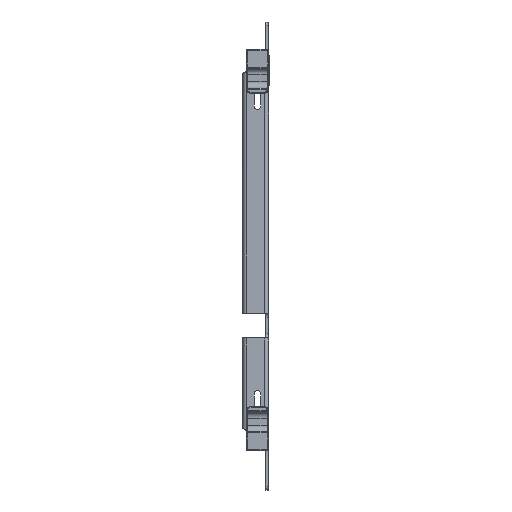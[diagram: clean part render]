
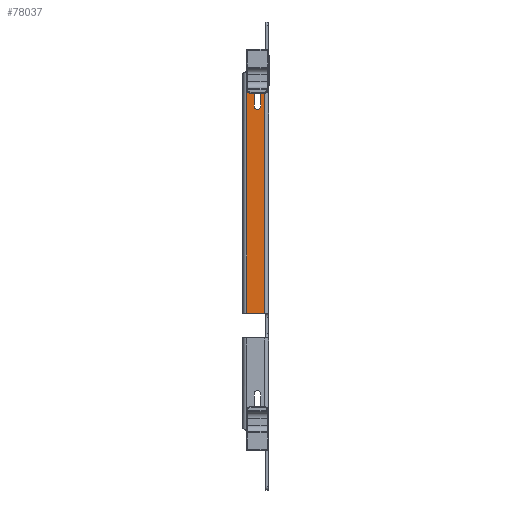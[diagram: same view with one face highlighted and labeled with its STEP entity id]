
A CAD part, left-side view. The second image highlights one B-rep face of the part: STEP entity #78037.
In plain terms, the highlighted planar face has unit normal (-1, 0, 0).
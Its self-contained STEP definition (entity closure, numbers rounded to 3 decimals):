
#810 = CARTESIAN_POINT ( 'NONE',  ( -214.538, -14.722, 309.982 ) ) ;
#2308 = CARTESIAN_POINT ( 'NONE',  ( -214.538, -14.722, 6.223 ) ) ;
#3298 = VERTEX_POINT ( 'NONE', #29318 ) ;
#5961 = VECTOR ( 'NONE', #44563, 1000. ) ;
#7656 = VECTOR ( 'NONE', #46273, 1000. ) ;
#9056 = LINE ( 'NONE', #36776, #32837 ) ;
#14528 = EDGE_CURVE ( 'NONE', #34380, #23876, #23223, .T. ) ;
#15493 = ORIENTED_EDGE ( 'NONE', *, *, #39922, .T. ) ;
#16101 = CARTESIAN_POINT ( 'NONE',  ( -214.538, -11.547, 309.982 ) ) ;
#16406 = LINE ( 'NONE', #77020, #48850 ) ;
#16756 = EDGE_CURVE ( 'NONE', #34380, #55529, #87887, .T. ) ;
#17468 = AXIS2_PLACEMENT_3D ( 'NONE', #47866, #33770, #19247 ) ;
#19247 = DIRECTION ( 'NONE',  ( 0., 0., 1. ) ) ;
#19456 = LINE ( 'NONE', #73130, #7656 ) ;
#23223 = LINE ( 'NONE', #2308, #5961 ) ;
#23876 = VERTEX_POINT ( 'NONE', #810 ) ;
#23932 = EDGE_CURVE ( 'NONE', #46471, #48722, #43965, .T. ) ;
#25202 = ORIENTED_EDGE ( 'NONE', *, *, #16756, .F. ) ;
#25820 = ORIENTED_EDGE ( 'NONE', *, *, #52088, .F. ) ;
#28143 = EDGE_CURVE ( 'NONE', #3298, #37649, #19456, .T. ) ;
#28425 = AXIS2_PLACEMENT_3D ( 'NONE', #85337, #33913, #60756 ) ;
#28459 = ORIENTED_EDGE ( 'NONE', *, *, #23932, .F. ) ;
#28681 = CARTESIAN_POINT ( 'NONE',  ( -214.538, -0.752, 141.605 ) ) ;
#29318 = CARTESIAN_POINT ( 'NONE',  ( -214.538, -6.467, 309.982 ) ) ;
#29876 = PLANE ( 'NONE',  #28425 ) ;
#32837 = VECTOR ( 'NONE', #85878, 1000. ) ;
#33770 = DIRECTION ( 'NONE',  ( 1., 0., 0. ) ) ;
#33913 = DIRECTION ( 'NONE',  ( 1., 0., 0. ) ) ;
#34380 = VERTEX_POINT ( 'NONE', #42941 ) ;
#36776 = CARTESIAN_POINT ( 'NONE',  ( -214.538, -6.467, 300.076 ) ) ;
#37649 = VERTEX_POINT ( 'NONE', #43286 ) ;
#38472 = FACE_OUTER_BOUND ( 'NONE', #50969, .T. ) ;
#38771 = CARTESIAN_POINT ( 'NONE',  ( -214.538, -18.024, 141.605 ) ) ;
#39922 = EDGE_CURVE ( 'NONE', #23876, #45372, #89625, .T. ) ;
#40865 = CARTESIAN_POINT ( 'NONE',  ( -214.538, -11.547, 300.076 ) ) ;
#42941 = CARTESIAN_POINT ( 'NONE',  ( -214.538, -14.722, 141.605 ) ) ;
#43286 = CARTESIAN_POINT ( 'NONE',  ( -214.538, -3.292, 309.982 ) ) ;
#43965 = CIRCLE ( 'NONE', #86113, 2.54 ) ;
#44563 = DIRECTION ( 'NONE',  ( 0., 0., 1. ) ) ;
#45372 = VERTEX_POINT ( 'NONE', #16101 ) ;
#46273 = DIRECTION ( 'NONE',  ( 0., 1., 0. ) ) ;
#46471 = VERTEX_POINT ( 'NONE', #80409 ) ;
#47330 = ORIENTED_EDGE ( 'NONE', *, *, #52395, .T. ) ;
#47866 = CARTESIAN_POINT ( 'NONE',  ( -214.538, -3.292, 312.522 ) ) ;
#48722 = VERTEX_POINT ( 'NONE', #40865 ) ;
#48850 = VECTOR ( 'NONE', #86847, 1000. ) ;
#49980 = VERTEX_POINT ( 'NONE', #63438 ) ;
#50969 = EDGE_LOOP ( 'NONE', ( #83083, #15493, #69226, #28459, #66825, #69736, #47330, #25820, #25202 ) ) ;
#51368 = CARTESIAN_POINT ( 'NONE',  ( -214.538, -0.752, 6.223 ) ) ;
#52088 = EDGE_CURVE ( 'NONE', #55529, #49980, #65015, .T. ) ;
#52295 = VECTOR ( 'NONE', #61062, 1000. ) ;
#52395 = EDGE_CURVE ( 'NONE', #37649, #49980, #72623, .T. ) ;
#54167 = CARTESIAN_POINT ( 'NONE',  ( -214.538, -3.292, 309.982 ) ) ;
#55529 = VERTEX_POINT ( 'NONE', #28681 ) ;
#58199 = DIRECTION ( 'NONE',  ( 0., 0., 1. ) ) ;
#59396 = DIRECTION ( 'NONE',  ( 0., 0., 1. ) ) ;
#59839 = CARTESIAN_POINT ( 'NONE',  ( -214.538, -9.007, 300.076 ) ) ;
#60536 = DIRECTION ( 'NONE',  ( 0., 1., 0. ) ) ;
#60756 = DIRECTION ( 'NONE',  ( 0., 0., 1. ) ) ;
#61062 = DIRECTION ( 'NONE',  ( 0., 1., 0. ) ) ;
#63438 = CARTESIAN_POINT ( 'NONE',  ( -214.538, -0.752, 312.522 ) ) ;
#63647 = EDGE_CURVE ( 'NONE', #3298, #46471, #9056, .T. ) ;
#65015 = LINE ( 'NONE', #51368, #71131 ) ;
#66825 = ORIENTED_EDGE ( 'NONE', *, *, #63647, .F. ) ;
#69226 = ORIENTED_EDGE ( 'NONE', *, *, #79038, .F. ) ;
#69736 = ORIENTED_EDGE ( 'NONE', *, *, #28143, .T. ) ;
#71131 = VECTOR ( 'NONE', #58199, 1000. ) ;
#72623 = CIRCLE ( 'NONE', #17468, 2.54 ) ;
#73130 = CARTESIAN_POINT ( 'NONE',  ( -214.538, -3.292, 309.982 ) ) ;
#77020 = CARTESIAN_POINT ( 'NONE',  ( -214.538, -11.547, 325.476 ) ) ;
#78037 = ADVANCED_FACE ( 'NONE', ( #38472 ), #29876, .F. ) ;
#79038 = EDGE_CURVE ( 'NONE', #48722, #45372, #16406, .T. ) ;
#80409 = CARTESIAN_POINT ( 'NONE',  ( -214.538, -6.467, 300.076 ) ) ;
#83083 = ORIENTED_EDGE ( 'NONE', *, *, #14528, .T. ) ;
#85337 = CARTESIAN_POINT ( 'NONE',  ( -214.538, -15.357, 6.223 ) ) ;
#85878 = DIRECTION ( 'NONE',  ( 0., 0., -1. ) ) ;
#86113 = AXIS2_PLACEMENT_3D ( 'NONE', #59839, #86670, #59396 ) ;
#86670 = DIRECTION ( 'NONE',  ( -1., 0., 0. ) ) ;
#86847 = DIRECTION ( 'NONE',  ( 0., 0., 1. ) ) ;
#87887 = LINE ( 'NONE', #38771, #52295 ) ;
#88624 = VECTOR ( 'NONE', #60536, 1000. ) ;
#89625 = LINE ( 'NONE', #54167, #88624 ) ;
